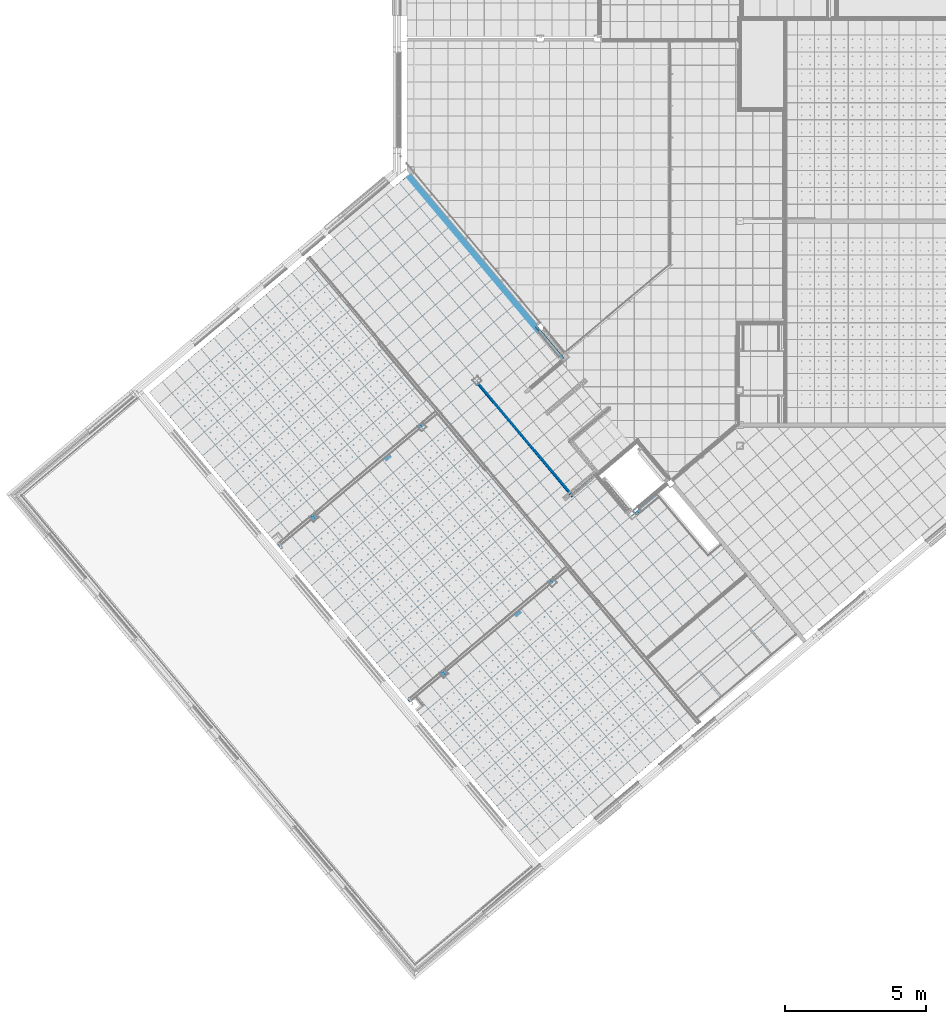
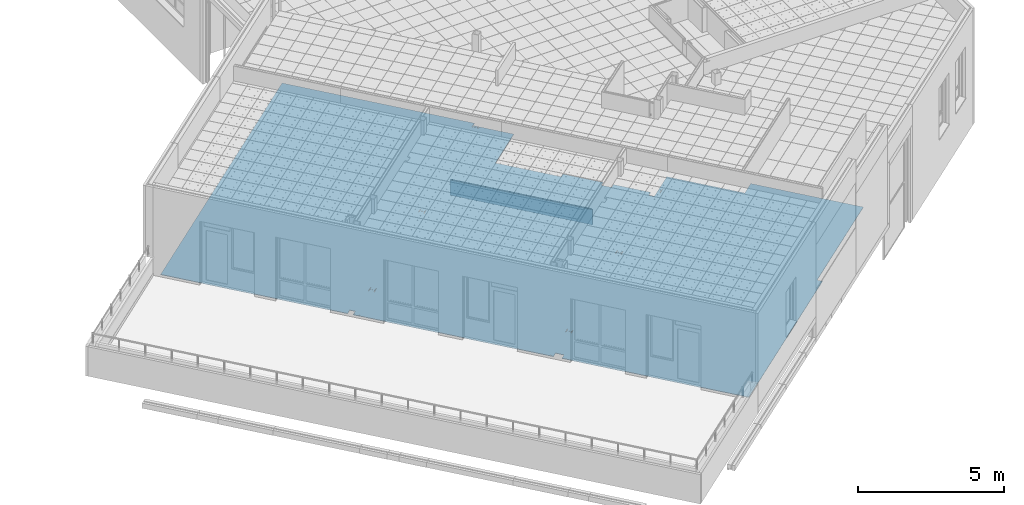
# One storey, part 59 of 321: 4 building element parts, 2 elements without a shape of their own.
"""IFC2X3 building model written with IfcOpenShell, lengths in millimetres."""

from ifc_helpers import new_model, entity, si_unit, converted_unit, derived_unit, money_unit, direction, frame, origin_with_axes, place, context, subcontext, project, spatial, faceted_brep, material, type_object, element, aggregate, save


model = new_model("IFC2X3")

# Units and contexts
model_context = context("Model", 3, precision=0.01, world=origin_with_axes(), true_north=direction((0.0, 1.0)))
plan_context = context("Plan", 3, precision=0.01, world=origin_with_axes(), true_north=direction((0.0, 1.0)))
body_context = subcontext(model_context, "Body", "Model", "MODEL_VIEW")
ifc_project = project(units=[si_unit("LENGTHUNIT", "METRE", prefix="MILLI"), si_unit("AREAUNIT", "SQUARE_METRE"), si_unit("VOLUMEUNIT", "CUBIC_METRE"), converted_unit("PLANEANGLEUNIT", "DEGREE", entity("IfcPlaneAngleMeasure", 0.0174532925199), si_unit("PLANEANGLEUNIT", "RADIAN"), dimensions=[0, 0, 0, 0, 0, 0, 0]), money_unit("EUR"), converted_unit("TIMEUNIT", "Year", entity("IfcTimeMeasure", 31556926.0), si_unit("TIMEUNIT", "SECOND"), dimensions=[0, 0, 1, 0, 0, 0, 0]), si_unit("MASSUNIT", "GRAM", prefix="KILO"), si_unit("THERMODYNAMICTEMPERATUREUNIT", "DEGREE_CELSIUS"), si_unit("LUMINOUSINTENSITYUNIT", "LUMEN"), si_unit("ENERGYUNIT", "JOULE", prefix="MEGA"), derived_unit("THERMALCONDUCTANCEUNIT", [(si_unit("POWERUNIT", "WATT"), 1), (si_unit("LENGTHUNIT", "METRE"), -1), (si_unit("THERMODYNAMICTEMPERATUREUNIT", "KELVIN"), -1)]), derived_unit("SPECIFICHEATCAPACITYUNIT", [(si_unit("ENERGYUNIT", "JOULE"), 1), (si_unit("MASSUNIT", "GRAM", prefix="KILO"), -1), (si_unit("THERMODYNAMICTEMPERATUREUNIT", "KELVIN"), -1)]), derived_unit("MASSDENSITYUNIT", [(si_unit("MASSUNIT", "GRAM", prefix="KILO"), 1), (si_unit("VOLUMEUNIT", "CUBIC_METRE"), -1)])], contexts=[model_context, plan_context])

# Site, building, storey
site_placement = place(None, origin_with_axes())
site = spatial("IfcSite", under=ifc_project, at=site_placement, Name="Fortuinstraat Woensdrecht", CompositionType="ELEMENT")
building_placement = place(site_placement, origin_with_axes())
building = spatial("IfcBuilding", under=site, at=building_placement, Name="IKC Fortuna", CompositionType="ELEMENT")
storey_placement = place(building_placement, frame((0.0, 0.0, 4000.0), z_axis=(0.0, 0.0, 1.0), x_axis=(1.0, 0.0, 0.0)))
storey = spatial("IfcBuildingStorey", under=building, at=storey_placement, Name="01 eerste verdieping", CompositionType="ELEMENT", Elevation=4000.0)

# Covering, building element part
covering_type = type_object("IfcCoveringType", Name="43 Vloerafwerking 90", PredefinedType="FLOORING")
covering_placement = place(storey_placement, frame((14022.1121307, 11486.5919573, 1450.0), z_axis=(0.0, 0.0, 1.0), x_axis=(1.0, 0.0, 0.0)))
covering = element("IfcCovering", 1, at=covering_placement, inside=storey, type_object=covering_type, Name="43_Vloerafwerking_Vloerafwerking", PredefinedType="FLOORING")
ifc_material_1 = material(Name="Isolatie - XPS zwevende dekvloer")
building_element_part_1_placement = place(covering_placement, origin_with_axes())
building_element_part_1 = element("IfcBuildingElementPart", 2, at=building_element_part_1_placement, material=ifc_material_1, Name="Isolatie - XPS zwevende dekvloer", context=body_context, shape_type="Brep", body=[
    faceted_brep([(4366.97959641, -5546.62286477, -70.0), (4487.82366703, -5690.63922008, -70.0), (4541.44672741, -5645.64412989, -70.0), (4420.60265679, -5501.62777458, -70.0), (4487.82366703, -5690.63922008, -90.0), (4366.97959641, -5546.62286477, -90.0), (4541.44672741, -5645.64412989, -90.0), (4420.60265679, -5501.62777458, -90.0)], [[[0, 1, 2, 3]], [[4, 1, 0, 5]], [[1, 4, 6, 2]], [[2, 6, 7, 3]], [[5, 0, 3, 7]], [[4, 5, 7, 6]]]),
    faceted_brep([(4556.55223624, -5663.64617431, -90.0), (4556.55223624, -5663.64617431, -70.0), (5364.97444088, -6627.08624103, -70.0), (5364.97444088, -6627.08624103, -90.0), (4493.35362032, -5716.67610961, -70.0), (4493.35362032, -5716.67610961, -90.0), (4342.29853204, -5536.65566548, -70.0), (4520.4038651, -5387.2075462, -70.0), (0.0, 0.0, -70.0), (-115.133644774, -96.6085988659, -70.0), (-111.204100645, -101.291647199, -70.0), (-119.630589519, -108.362310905, -70.0), (-123.560133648, -103.679262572, -70.0), (-267.576488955, -224.523333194, -70.0), (-263.646944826, -229.206381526, -70.0), (-272.0734337, -236.277045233, -70.0), (-276.002977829, -231.5939969, -70.0), (-9345.74225672, -7842.00888069, -70.0), (-4952.60954381, -13077.540574, -70.0), (-4788.67602772, -12939.9840212, -70.0), (-4661.40462621, -13091.6601711, -70.0), (-4825.33814229, -13229.216724, -70.0), (-4817.3035465, -13238.7919824, -70.0), (-4763.68043546, -13193.7968497, -70.0), (-4756.60977175, -13202.2233386, -70.0), (-4810.2328828, -13247.2184713, -70.0), (-4689.38881217, -13391.2348266, -70.0), (-4635.76570113, -13346.2396939, -70.0), (-4628.69503743, -13354.6661828, -70.0), (-4682.31814847, -13399.6613155, -70.0), (-189.035928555, -18754.5465436, -70.0), (-135.412817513, -18709.5514109, -70.0), (-128.342153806, -18717.9778998, -70.0), (-181.965264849, -18762.9730325, -70.0), (-116.918901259, -18840.49227, -70.0), (47.0158051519, -18702.9347183, -70.0), (244.352145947, -18938.1110114, -70.0), (80.4174395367, -19075.6685631, -70.0), (4474.19135154, -24311.9644077, -70.0), (10139.0867266, -19558.5527879, -70.0), (10010.5292046, -19405.3438993, -70.0), (13576.4751294, -16413.159989, -70.0), (10929.79712, -13258.9720167, -70.0), (10470.1704573, -13644.6445863, -70.0), (8638.22574419, -11461.41793, -70.0), (7952.45977333, -12036.8439131, -70.0), (8012.75382194, -12108.6995621, -70.0), (8020.38625934, -12114.0438523, -70.0), (8029.66828911, -12114.8559247, -70.0), (8038.11279889, -12110.9181851, -70.0), (8105.90773211, -12054.0314816, -70.0), (8112.97839581, -12062.4579705, -70.0), (7944.44861833, -12203.8712446, -70.0), (7937.37795462, -12195.4447558, -70.0), (8005.17288784, -12138.5580523, -70.0), (8010.51717804, -12130.9256149, -70.0), (8011.32925042, -12121.6435851, -70.0), (8007.39151084, -12113.1990754, -70.0), (7947.09746227, -12041.3434264, -70.0), (7680.670161, -12264.9024804, -70.0), (7551.79127751, -12111.3105558, -70.0), (7689.67361911, -11995.613522, -70.0), (6814.19684189, -10952.2610348, -70.0), (6676.31450029, -11067.9580686, -70.0), (6435.16219235, -10780.563206, -70.0), (6573.04418232, -10664.8664863, -70.0), (5627.00280012, -9537.41827036, -70.0), (5496.77526721, -9646.6921452, -70.0), (4019.73144893, -7886.41986835, -70.0), (4012.07671006, -7892.84295692, -70.0), (3947.79794909, -7816.23851261, -70.0), (3955.45268797, -7809.81542404, -70.0), (403.582429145, -9119.43715145, -70.0), (471.377362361, -9062.55044799, -70.0), (478.448026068, -9070.97693687, -70.0), (309.918248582, -9212.390211, -70.0), (302.847584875, -9203.96372213, -70.0), (370.642518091, -9147.07701867, -70.0), (375.986808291, -9139.44458127, -70.0), (376.798880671, -9130.16255149, -70.0), (372.861141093, -9121.71804172, -70.0), (275.15742442, -9005.27928636, -70.0), (267.524987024, -8999.93499616, -70.0), (258.242957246, -8999.12292378, -70.0), (249.79844747, -9003.06066336, -70.0), (182.003514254, -9059.94736682, -70.0), (174.932850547, -9051.52087794, -70.0), (343.462628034, -8910.10760381, -70.0), (350.53329174, -8918.53409269, -70.0), (282.738358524, -8975.42079615, -70.0), (277.394068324, -8983.05323354, -70.0), (276.581995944, -8992.33526332, -70.0), (280.519735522, -9000.7797731, -70.0), (378.223452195, -9117.21852845, -70.0), (385.855889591, -9122.56281865, -70.0), (395.137919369, -9123.37489103, -70.0), (-3426.9855386, -12333.6653204, -70.0), (-3359.19060538, -12276.7786169, -70.0), (-3352.11994168, -12285.2051058, -70.0), (-3520.64971916, -12426.6183799, -70.0), (-3527.72038287, -12418.1918911, -70.0), (-3459.92544965, -12361.3051876, -70.0), (-3454.58115945, -12353.6727502, -70.0), (-3453.76908707, -12344.3907204, -70.0), (-3457.70682665, -12335.9462107, -70.0), (-3555.41054332, -12219.5074553, -70.0), (-3563.04298072, -12214.1631651, -70.0), (-3572.3250105, -12213.3510927, -70.0), (-3580.76952027, -12217.2888323, -70.0), (-3648.56445349, -12274.1755358, -70.0), (-3655.6351172, -12265.7490469, -70.0), (-3487.10533971, -12124.3357727, -70.0), (-3480.034676, -12132.7622616, -70.0), (-3547.82960922, -12189.6489651, -70.0), (-3553.17389942, -12197.2814025, -70.0), (-3553.9859718, -12206.5634323, -70.0), (-3550.04823222, -12215.007942, -70.0), (-3452.34451555, -12331.4466974, -70.0), (-3444.71207815, -12336.7909876, -70.0), (-3435.43004837, -12337.60306, -70.0), (5030.48470023, -14634.6178134, -70.0), (5098.27963345, -14577.7311099, -70.0), (5105.35029715, -14586.1575988, -70.0), (4936.82051967, -14727.5708729, -70.0), (4929.74985596, -14719.1443841, -70.0), (4997.54478918, -14662.2576806, -70.0), (5002.88907938, -14654.6252432, -70.0), (5003.70115176, -14645.3432134, -70.0), (4999.76341218, -14636.8987037, -70.0), (4902.05969551, -14520.4599483, -70.0), (4894.42725811, -14515.1156581, -70.0), (4885.14522833, -14514.3035857, -70.0), (4876.70071856, -14518.2413253, -70.0), (4808.90578534, -14575.1280288, -70.0), (4801.83512163, -14566.7015399, -70.0), (4970.36489912, -14425.2882658, -70.0), (4977.43556283, -14433.7147546, -70.0), (4909.64062961, -14490.6014581, -70.0), (4904.29633941, -14498.2338955, -70.0), (4903.48426703, -14507.5159253, -70.0), (4907.42200661, -14515.960435, -70.0), (5005.12572328, -14632.3991904, -70.0), (5012.75816068, -14637.7434806, -70.0), (5022.04019045, -14638.555553, -70.0), (1182.01503298, -17863.8672918, -70.0), (1249.80996619, -17806.9805883, -70.0), (1256.8806299, -17815.4070772, -70.0), (1088.35085241, -17956.8203513, -70.0), (1081.28018871, -17948.3938625, -70.0), (1149.07512192, -17891.507159, -70.0), (1154.41941212, -17883.8747216, -70.0), (1155.2314845, -17874.5926918, -70.0), (1151.29374492, -17866.1481821, -70.0), (1053.59002825, -17749.7094267, -70.0), (1045.95759086, -17744.3651365, -70.0), (1036.67556108, -17743.5530641, -70.0), (1028.2310513, -17747.4908037, -70.0), (960.436118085, -17804.3775072, -70.0), (953.365454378, -17795.9510183, -70.0), (1121.89523186, -17654.5377442, -70.0), (1128.96589557, -17662.964233, -70.0), (1061.17096236, -17719.8509365, -70.0), (1055.82667216, -17727.4833739, -70.0), (1055.01459978, -17736.7654037, -70.0), (1058.95233935, -17745.2099134, -70.0), (1156.65605603, -17861.6486688, -70.0), (1164.28849342, -17866.992959, -70.0), (1173.5705232, -17867.8050314, -70.0), (3955.45268797, -7809.81542404, -90.0), (3947.79794909, -7816.23851261, -90.0), (4012.07671006, -7892.84295692, -90.0), (4019.73144893, -7886.41986835, -90.0), (5496.77526721, -9646.6921452, -90.0), (5627.00280012, -9537.41827036, -90.0), (6573.04418232, -10664.8664863, -90.0), (6435.16219235, -10780.563206, -90.0), (6676.31450029, -11067.9580686, -90.0), (6814.19684189, -10952.2610348, -90.0), (7689.67361911, -11995.613522, -90.0), (7551.79127751, -12111.3105558, -90.0), (7680.670161, -12264.9024804, -90.0), (7947.09746227, -12041.3434264, -90.0), (8007.39151084, -12113.1990754, -90.0), (8011.32925042, -12121.6435851, -90.0), (8010.51717804, -12130.9256149, -90.0), (8005.17288784, -12138.5580523, -90.0), (7937.37795462, -12195.4447558, -90.0), (7944.44861833, -12203.8712446, -90.0), (8112.97839581, -12062.4579705, -90.0), (8105.90773211, -12054.0314816, -90.0), (8038.11279889, -12110.9181851, -90.0), (8029.66828911, -12114.8559247, -90.0), (8020.38625934, -12114.0438523, -90.0), (8012.75382194, -12108.6995621, -90.0), (7952.45977333, -12036.8439131, -90.0), (8638.22574419, -11461.41793, -90.0), (10470.1704573, -13644.6445863, -90.0), (10929.79712, -13258.9720167, -90.0), (13576.4751294, -16413.159989, -90.0), (10010.5292046, -19405.3438993, -90.0), (10139.0867266, -19558.5527879, -90.0), (4474.19135154, -24311.9644077, -90.0), (80.4174395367, -19075.6685631, -90.0), (244.352145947, -18938.1110114, -90.0), (47.0158051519, -18702.9347183, -90.0), (-116.918901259, -18840.49227, -90.0), (-181.965264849, -18762.9730325, -90.0), (-128.342153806, -18717.9778998, -90.0), (-135.412817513, -18709.5514109, -90.0), (-189.035928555, -18754.5465436, -90.0), (-4682.31814847, -13399.6613155, -90.0), (-4628.69503743, -13354.6661828, -90.0), (-4635.76570113, -13346.2396939, -90.0), (-4689.38881217, -13391.2348266, -90.0), (-4810.2328828, -13247.2184713, -90.0), (-4756.60977175, -13202.2233386, -90.0), (-4763.68043546, -13193.7968497, -90.0), (-4817.3035465, -13238.7919824, -90.0), (-4825.33814229, -13229.216724, -90.0), (-4661.40462621, -13091.6601711, -90.0), (-4788.67602772, -12939.9840212, -90.0), (-4952.60954381, -13077.540574, -90.0), (-9345.74225672, -7842.00888069, -90.0), (-276.002977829, -231.5939969, -90.0), (-272.0734337, -236.277045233, -90.0), (-263.646944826, -229.206381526, -90.0), (-267.576488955, -224.523333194, -90.0), (-123.560133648, -103.679262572, -90.0), (-119.630589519, -108.362310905, -90.0), (-111.204100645, -101.291647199, -90.0), (-115.133644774, -96.6085988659, -90.0), (0.0, 0.0, -90.0), (4520.4038651, -5387.2075462, -90.0), (4342.29853204, -5536.65566548, -90.0), (302.847584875, -9203.96372213, -90.0), (309.918248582, -9212.390211, -90.0), (478.448026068, -9070.97693687, -90.0), (471.377362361, -9062.55044799, -90.0), (403.582429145, -9119.43715145, -90.0), (395.137919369, -9123.37489103, -90.0), (385.855889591, -9122.56281865, -90.0), (378.223452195, -9117.21852845, -90.0), (280.519735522, -9000.7797731, -90.0), (276.581995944, -8992.33526332, -90.0), (277.394068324, -8983.05323354, -90.0), (282.738358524, -8975.42079615, -90.0), (350.53329174, -8918.53409269, -90.0), (343.462628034, -8910.10760381, -90.0), (174.932850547, -9051.52087794, -90.0), (182.003514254, -9059.94736682, -90.0), (249.79844747, -9003.06066336, -90.0), (258.242957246, -8999.12292378, -90.0), (267.524987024, -8999.93499616, -90.0), (275.15742442, -9005.27928636, -90.0), (372.861141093, -9121.71804172, -90.0), (376.798880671, -9130.16255149, -90.0), (375.986808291, -9139.44458127, -90.0), (370.642518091, -9147.07701867, -90.0), (-3527.72038287, -12418.1918911, -90.0), (-3520.64971916, -12426.6183799, -90.0), (-3352.11994168, -12285.2051058, -90.0), (-3359.19060538, -12276.7786169, -90.0), (-3426.9855386, -12333.6653204, -90.0), (-3435.43004837, -12337.60306, -90.0), (-3444.71207815, -12336.7909876, -90.0), (-3452.34451555, -12331.4466974, -90.0), (-3550.04823222, -12215.007942, -90.0), (-3553.9859718, -12206.5634323, -90.0), (-3553.17389942, -12197.2814025, -90.0), (-3547.82960922, -12189.6489651, -90.0), (-3480.034676, -12132.7622616, -90.0), (-3487.10533971, -12124.3357727, -90.0), (-3655.6351172, -12265.7490469, -90.0), (-3648.56445349, -12274.1755358, -90.0), (-3580.76952027, -12217.2888323, -90.0), (-3572.3250105, -12213.3510927, -90.0), (-3563.04298072, -12214.1631651, -90.0), (-3555.41054332, -12219.5074553, -90.0), (-3457.70682665, -12335.9462107, -90.0), (-3453.76908707, -12344.3907204, -90.0), (-3454.58115945, -12353.6727502, -90.0), (-3459.92544965, -12361.3051876, -90.0), (4929.74985596, -14719.1443841, -90.0), (4936.82051967, -14727.5708729, -90.0), (5105.35029715, -14586.1575988, -90.0), (5098.27963345, -14577.7311099, -90.0), (5030.48470023, -14634.6178134, -90.0), (5022.04019045, -14638.555553, -90.0), (5012.75816068, -14637.7434806, -90.0), (5005.12572328, -14632.3991904, -90.0), (4907.42200661, -14515.960435, -90.0), (4903.48426703, -14507.5159253, -90.0), (4904.29633941, -14498.2338955, -90.0), (4909.64062961, -14490.6014581, -90.0), (4977.43556283, -14433.7147546, -90.0), (4970.36489912, -14425.2882658, -90.0), (4801.83512163, -14566.7015399, -90.0), (4808.90578534, -14575.1280288, -90.0), (4876.70071856, -14518.2413253, -90.0), (4885.14522833, -14514.3035857, -90.0), (4894.42725811, -14515.1156581, -90.0), (4902.05969551, -14520.4599483, -90.0), (4999.76341218, -14636.8987037, -90.0), (5003.70115176, -14645.3432134, -90.0), (5002.88907938, -14654.6252432, -90.0), (4997.54478918, -14662.2576806, -90.0), (1081.28018871, -17948.3938625, -90.0), (1088.35085241, -17956.8203513, -90.0), (1256.8806299, -17815.4070772, -90.0), (1249.80996619, -17806.9805883, -90.0), (1182.01503298, -17863.8672918, -90.0), (1173.5705232, -17867.8050314, -90.0), (1164.28849342, -17866.992959, -90.0), (1156.65605603, -17861.6486688, -90.0), (1058.95233935, -17745.2099134, -90.0), (1055.01459978, -17736.7654037, -90.0), (1055.82667216, -17727.4833739, -90.0), (1061.17096236, -17719.8509365, -90.0), (1128.96589557, -17662.964233, -90.0), (1121.89523186, -17654.5377442, -90.0), (953.365454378, -17795.9510183, -90.0), (960.436118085, -17804.3775072, -90.0), (1028.2310513, -17747.4908037, -90.0), (1036.67556108, -17743.5530641, -90.0), (1045.95759086, -17744.3651365, -90.0), (1053.59002825, -17749.7094267, -90.0), (1151.29374492, -17866.1481821, -90.0), (1155.2314845, -17874.5926918, -90.0), (1154.41941212, -17883.8747216, -90.0), (1149.07512192, -17891.507159, -90.0)], [[[0, 1, 2, 3]], [[4, 1, 0, 5]], [[6, 7, 8, 9, 10, 11, 12, 13, 14, 15, 16, 17, 18, 19, 20, 21, 22, 23, 24, 25, 26, 27, 28, 29, 30, 31, 32, 33, 34, 35, 36, 37, 38, 39, 40, 41, 42, 43, 44, 45, 46, 47, 48, 49, 50, 51, 52, 53, 54, 55, 56, 57, 58, 59, 60, 61, 62, 63, 64, 65, 66, 67, 68, 69, 70, 71, 2, 1, 4], [72, 73, 74, 75, 76, 77, 78, 79, 80, 81, 82, 83, 84, 85, 86, 87, 88, 89, 90, 91, 92, 93, 94, 95], [96, 97, 98, 99, 100, 101, 102, 103, 104, 105, 106, 107, 108, 109, 110, 111, 112, 113, 114, 115, 116, 117, 118, 119], [120, 121, 122, 123, 124, 125, 126, 127, 128, 129, 130, 131, 132, 133, 134, 135, 136, 137, 138, 139, 140, 141, 142, 143], [144, 145, 146, 147, 148, 149, 150, 151, 152, 153, 154, 155, 156, 157, 158, 159, 160, 161, 162, 163, 164, 165, 166, 167]], [[2, 71, 168, 3]], [[5, 0, 3, 168, 169, 170, 171, 172, 173, 174, 175, 176, 177, 178, 179, 180, 181, 182, 183, 184, 185, 186, 187, 188, 189, 190, 191, 192, 193, 194, 195, 196, 197, 198, 199, 200, 201, 202, 203, 204, 205, 206, 207, 208, 209, 210, 211, 212, 213, 214, 215, 216, 217, 218, 219, 220, 221, 222, 223, 224, 225, 226, 227, 228, 229, 230, 231, 232, 233], [234, 235, 236, 237, 238, 239, 240, 241, 242, 243, 244, 245, 246, 247, 248, 249, 250, 251, 252, 253, 254, 255, 256, 257], [258, 259, 260, 261, 262, 263, 264, 265, 266, 267, 268, 269, 270, 271, 272, 273, 274, 275, 276, 277, 278, 279, 280, 281], [282, 283, 284, 285, 286, 287, 288, 289, 290, 291, 292, 293, 294, 295, 296, 297, 298, 299, 300, 301, 302, 303, 304, 305], [306, 307, 308, 309, 310, 311, 312, 313, 314, 315, 316, 317, 318, 319, 320, 321, 322, 323, 324, 325, 326, 327, 328, 329]], [[6, 4, 5, 233]], [[232, 7, 6, 233]], [[7, 232, 231, 8]], [[230, 9, 8, 231]], [[10, 9, 230, 229]], [[11, 10, 229, 228]], [[12, 11, 228, 227]], [[12, 227, 226, 13]], [[14, 13, 226, 225]], [[15, 14, 225, 224]], [[16, 15, 224, 223]], [[16, 223, 222, 17]], [[222, 221, 18, 17]], [[221, 220, 19, 18]], [[220, 219, 20, 19]], [[219, 218, 21, 20]], [[217, 22, 21, 218]], [[23, 22, 217, 216]], [[24, 23, 216, 215]], [[25, 24, 215, 214]], [[213, 26, 25, 214]], [[27, 26, 213, 212]], [[28, 27, 212, 211]], [[29, 28, 211, 210]], [[209, 30, 29, 210]], [[31, 30, 209, 208]], [[32, 31, 208, 207]], [[33, 32, 207, 206]], [[33, 206, 205, 34]], [[205, 204, 35, 34]], [[204, 203, 36, 35]], [[203, 202, 37, 36]], [[202, 201, 38, 37]], [[201, 200, 39, 38]], [[200, 199, 40, 39]], [[199, 198, 41, 40]], [[198, 197, 42, 41]], [[197, 196, 43, 42]], [[196, 195, 44, 43]], [[194, 45, 44, 195]], [[46, 45, 194, 193]], [[47, 46, 193, 192]], [[48, 47, 192, 191]], [[49, 48, 191, 190]], [[50, 49, 190, 189]], [[51, 50, 189, 188]], [[52, 51, 188, 187]], [[53, 52, 187, 186]], [[54, 53, 186, 185]], [[55, 54, 185, 184]], [[56, 55, 184, 183]], [[57, 56, 183, 182]], [[58, 57, 182, 181]], [[58, 181, 180, 59]], [[180, 179, 60, 59]], [[179, 178, 61, 60]], [[178, 177, 62, 61]], [[177, 176, 63, 62]], [[176, 175, 64, 63]], [[175, 174, 65, 64]], [[174, 173, 66, 65]], [[173, 172, 67, 66]], [[172, 171, 68, 67]], [[170, 69, 68, 171]], [[169, 70, 69, 170]], [[169, 168, 71, 70]], [[73, 72, 238, 237]], [[74, 73, 237, 236]], [[75, 74, 236, 235]], [[76, 75, 235, 234]], [[77, 76, 234, 257]], [[78, 77, 257, 256]], [[79, 78, 256, 255]], [[80, 79, 255, 254]], [[81, 80, 254, 253]], [[82, 81, 253, 252]], [[83, 82, 252, 251]], [[84, 83, 251, 250]], [[85, 84, 250, 249]], [[86, 85, 249, 248]], [[87, 86, 248, 247]], [[88, 87, 247, 246]], [[89, 88, 246, 245]], [[90, 89, 245, 244]], [[91, 90, 244, 243]], [[92, 91, 243, 242]], [[93, 92, 242, 241]], [[94, 93, 241, 240]], [[95, 94, 240, 239]], [[72, 95, 239, 238]], [[97, 96, 262, 261]], [[98, 97, 261, 260]], [[99, 98, 260, 259]], [[100, 99, 259, 258]], [[101, 100, 258, 281]], [[102, 101, 281, 280]], [[103, 102, 280, 279]], [[104, 103, 279, 278]], [[105, 104, 278, 277]], [[106, 105, 277, 276]], [[107, 106, 276, 275]], [[108, 107, 275, 274]], [[109, 108, 274, 273]], [[110, 109, 273, 272]], [[111, 110, 272, 271]], [[112, 111, 271, 270]], [[113, 112, 270, 269]], [[114, 113, 269, 268]], [[115, 114, 268, 267]], [[116, 115, 267, 266]], [[117, 116, 266, 265]], [[118, 117, 265, 264]], [[119, 118, 264, 263]], [[96, 119, 263, 262]], [[121, 120, 286, 285]], [[122, 121, 285, 284]], [[123, 122, 284, 283]], [[124, 123, 283, 282]], [[125, 124, 282, 305]], [[126, 125, 305, 304]], [[127, 126, 304, 303]], [[128, 127, 303, 302]], [[129, 128, 302, 301]], [[130, 129, 301, 300]], [[131, 130, 300, 299]], [[132, 131, 299, 298]], [[133, 132, 298, 297]], [[134, 133, 297, 296]], [[135, 134, 296, 295]], [[136, 135, 295, 294]], [[137, 136, 294, 293]], [[138, 137, 293, 292]], [[139, 138, 292, 291]], [[140, 139, 291, 290]], [[141, 140, 290, 289]], [[142, 141, 289, 288]], [[143, 142, 288, 287]], [[120, 143, 287, 286]], [[145, 144, 310, 309]], [[146, 145, 309, 308]], [[147, 146, 308, 307]], [[148, 147, 307, 306]], [[149, 148, 306, 329]], [[150, 149, 329, 328]], [[151, 150, 328, 327]], [[152, 151, 327, 326]], [[153, 152, 326, 325]], [[154, 153, 325, 324]], [[155, 154, 324, 323]], [[156, 155, 323, 322]], [[157, 156, 322, 321]], [[158, 157, 321, 320]], [[159, 158, 320, 319]], [[160, 159, 319, 318]], [[161, 160, 318, 317]], [[162, 161, 317, 316]], [[163, 162, 316, 315]], [[164, 163, 315, 314]], [[165, 164, 314, 313]], [[166, 165, 313, 312]], [[167, 166, 312, 311]], [[144, 167, 311, 310]]]),
])
aggregate(covering, [building_element_part_1])

# Wall, building element parts
wall_type = type_object("IfcWallType", Name="MS75 50.2A 75", PredefinedType="NOTDEFINED")
wall_placement = place(storey_placement, frame((19666.2234443, 35.4701356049, 460.0), z_axis=(0.0, 0.0, 1.0), x_axis=(-0.642787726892, 0.766044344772, 0.0)))
wall = element("IfcWall", 3, at=wall_placement, inside=storey, type_object=wall_type, Name="22_Wand_koof")
ifc_material_2 = material(Name="Isolatie - Steenwol LSW")
building_element_part_2_placement = place(wall_placement, origin_with_axes())
building_element_part_2 = element("IfcBuildingElementPart", 4, at=building_element_part_2_placement, material=ifc_material_2, Name="Isolatie - Steenwol LSW", context=body_context, shape_type="Brep", body=[
    faceted_brep([(5131.40537897, 25.0, 625.0), (5132.53305906, 25.0, 625.0), (5132.53305906, 25.0, 640.0), (-75.1325223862, 25.0, 640.0), (-75.1325223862, 25.0, 0.0), (5131.40537897, 25.0, 0.0), (5131.40538662, 75.0, 625.0), (5132.53305906, 75.0, 625.0), (5132.53305906, 75.0, 640.0), (-75.3954925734, 75.0, 640.0), (-75.3954925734, 75.0, 0.0), (5131.40538662, 75.0, 0.0)], [[[0, 1, 2, 3, 4, 5]], [[1, 0, 6, 7]], [[1, 7, 8, 2]], [[3, 2, 8, 9]], [[9, 10, 4, 3]], [[11, 5, 4, 10]], [[0, 5, 11, 6]], [[6, 11, 10, 9, 8, 7]]]),
])
ifc_material_3 = material(Name="Gipsplaat")
building_element_part_3_placement = place(wall_placement, origin_with_axes())
building_element_part_3 = element("IfcBuildingElementPart", 5, at=building_element_part_3_placement, material=ifc_material_3, Name="Gipsplaat", context=body_context, shape_type="Brep", body=[
    faceted_brep([(5131.40537706, 12.5, 625.0), (5132.53305906, 12.5, 625.0), (5132.53305906, 12.5, 640.0), (-25.066088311, 12.5, 640.0), (-25.066088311, 12.5, 0.0), (5131.40537706, 12.5, 0.0), (5131.40537897, 25.0, 625.0), (5132.53305906, 25.0, 625.0), (5132.53305906, 25.0, 640.0), (-25.1318308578, 25.0, 640.0), (-25.1318308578, 25.0, 0.0), (5131.40537897, 25.0, 0.0)], [[[0, 1, 2, 3, 4, 5]], [[1, 0, 6, 7]], [[1, 7, 8, 2]], [[3, 2, 8, 9]], [[9, 10, 4, 3]], [[11, 5, 4, 10]], [[0, 5, 11, 6]], [[6, 11, 10, 9, 8, 7]]]),
])
building_element_part_4_placement = place(wall_placement, origin_with_axes())
building_element_part_4 = element("IfcBuildingElementPart", 6, at=building_element_part_4_placement, material=ifc_material_3, Name="Gipsplaat", context=body_context, shape_type="Brep", body=[
    faceted_brep([(5131.40537515, 0.0, 625.0), (5132.53305906, 0.0, 625.0), (5132.53305906, 0.0, 640.0), (-12.5001728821, 0.0, 640.0), (-12.5001728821, 0.0, 0.0), (5131.40537515, 0.0, 0.0), (5131.40537706, 12.5, 625.0), (5132.53305906, 12.5, 625.0), (5132.53305906, 12.5, 640.0), (-12.5659154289, 12.5, 640.0), (-12.5659154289, 12.5, 0.0), (5131.40537706, 12.5, 0.0)], [[[0, 1, 2, 3, 4, 5]], [[1, 0, 6, 7]], [[1, 7, 8, 2]], [[3, 2, 8, 9]], [[9, 10, 4, 3]], [[11, 5, 4, 10]], [[0, 5, 11, 6]], [[6, 11, 10, 9, 8, 7]]]),
])
aggregate(wall, [building_element_part_2, building_element_part_3, building_element_part_4])

save(model, "model.ifc")
